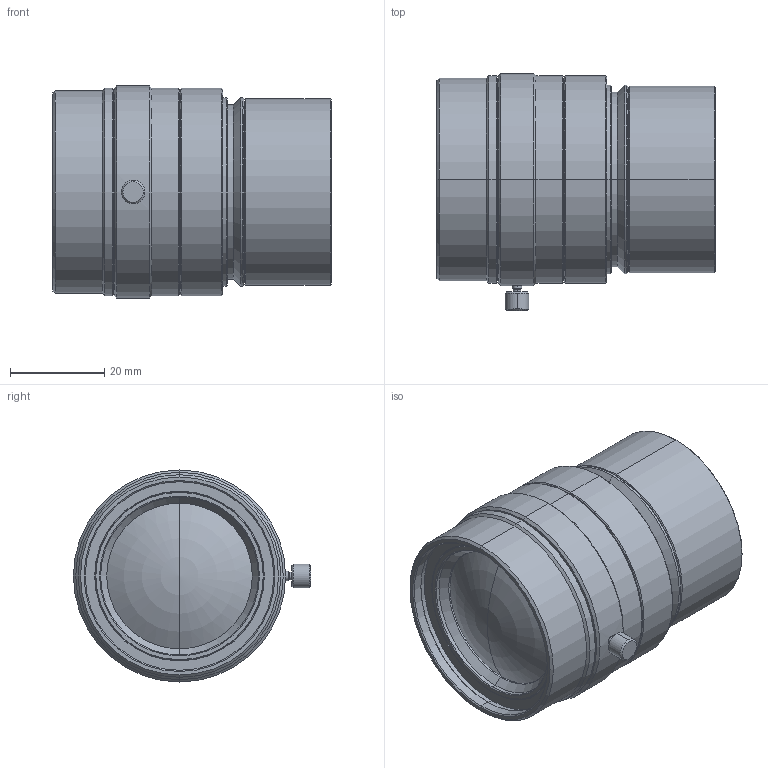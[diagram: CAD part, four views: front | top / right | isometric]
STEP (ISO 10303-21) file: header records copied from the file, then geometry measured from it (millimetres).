
FILE_DESCRIPTION (( 'STEP AP203' ), '1' );
FILE_NAME ('VS-L12056-03_V.STEP', '2017-10-11T00:28:41', ( 'miura_vst' ), ( '' ), 'SwSTEP 2.0', 'SolidWorks 2017', '' );
FILE_SCHEMA (( 'CONFIG_CONTROL_DESIGN' ));
Length unit declared in the file: millimetre
Products named in the file (1): VS-L12056-03_V
Bounding box: 58.99 x 50.3 x 45 mm (x, y, z)
Volume: 73782.6 mm3; surface area: 13338.8 mm2
Topology: 1 solids, 1 shells, 115 faces, 230 edges, 133 vertices
Faces by surface type: cone 58, cylinder 36, plane 17, sphere 2, torus 2
Entity records: 3075 total; most frequent: DIRECTION 594, CARTESIAN_POINT 511, ORIENTED_EDGE 460, AXIS2_PLACEMENT_3D 250, EDGE_CURVE 230, CIRCLE 134, VERTEX_POINT 133, EDGE_LOOP 131
